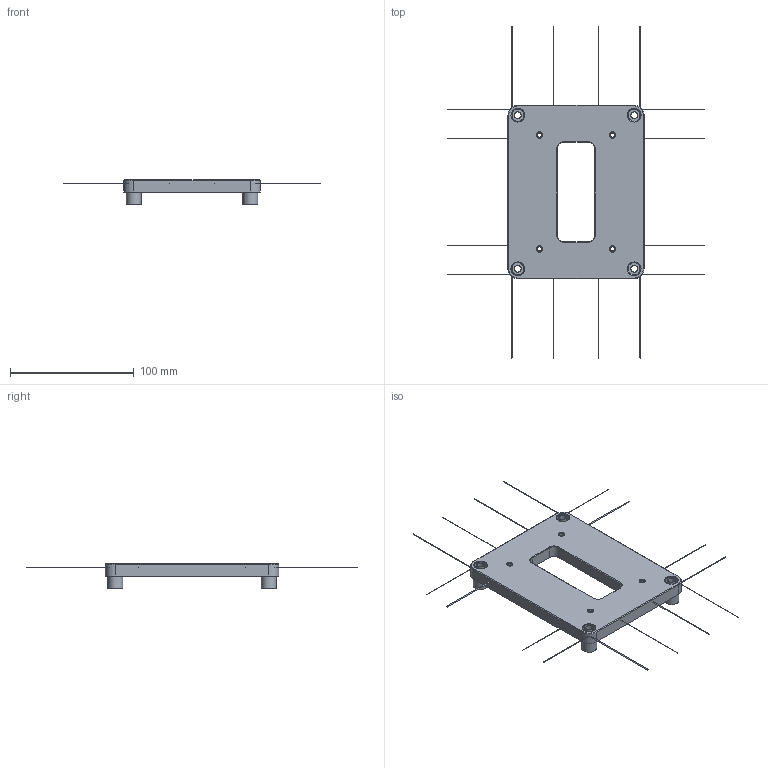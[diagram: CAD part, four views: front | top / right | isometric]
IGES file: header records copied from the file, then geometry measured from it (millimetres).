
Start section: Cimatron Iges convertor
Global section: file name: G:\k-box\cimatron\distenzplatten_neu\distanzplatte_gr1.igs; native system: prt/Cimatron V13.10; preprocessor: Cimatron IGES (V5.3) Convertor V5.0.6.0; author: NONE; organization: NONE; date: 060911.113724; units: millimetre
Bounding box: 208.08 x 268.08 x 20 mm (x, y, z)
Surface area: 46348.5 mm2 (no closed solid volume)
Topology: 0 solids, 0 shells, 176 faces, 776 edges, 744 vertices
Faces by surface type: bspline 176
